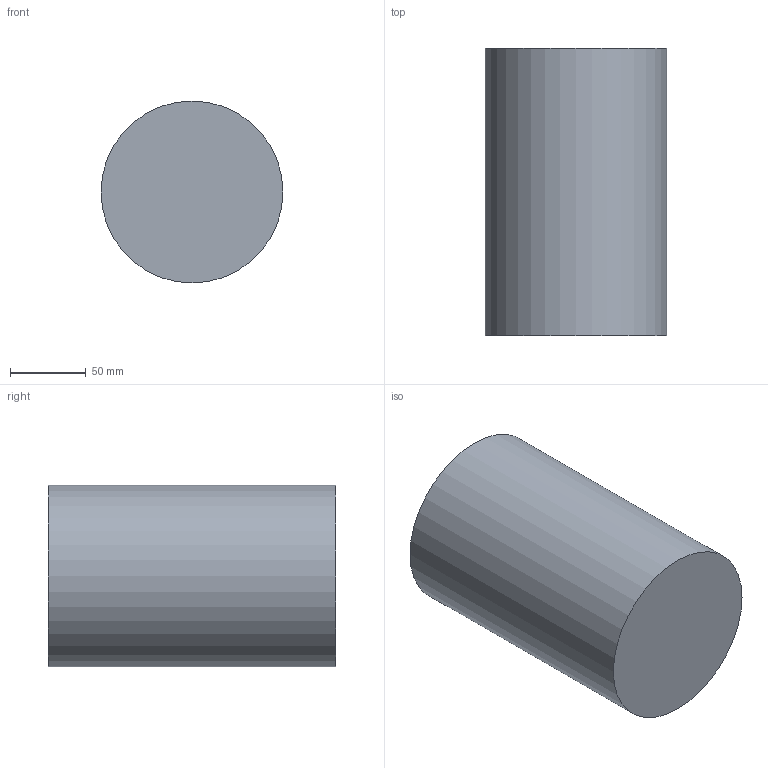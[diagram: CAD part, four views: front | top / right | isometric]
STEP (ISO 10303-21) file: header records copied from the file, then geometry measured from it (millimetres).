
FILE_DESCRIPTION(('Open CASCADE Model'),'2;1');
FILE_NAME('Open CASCADE Shape Model','2026-10-10T15:34:57',('Author'),( 'Open CASCADE'),'Open CASCADE STEP processor 7.9','Open CASCADE 7.9' ,'Unknown');
FILE_SCHEMA(('AUTOMOTIVE_DESIGN { 1 0 10303 214 1 1 1 1 }'));
Length unit declared in the file: millimetre
Products named in the file (1): Open CASCADE STEP translator 7.9 10
Bounding box: 120 x 189.7 x 120 mm (x, y, z)
Volume: 2145456.5 mm3; surface area: 94134.7 mm2
Topology: 1 solids, 1 shells, 3 faces, 3 edges, 2 vertices
Faces by surface type: plane 2, cylinder 1
Full cylindrical faces by diameter (mm): 120 x1
Entity records: 108 total; most frequent: DIRECTION 19, CARTESIAN_POINT 15, AXIS2_PLACEMENT_3D 6, ORIENTED_EDGE 6, PCURVE 6, DEFINITIONAL_REPRESENTATION 6, LINE 5, VECTOR 5
